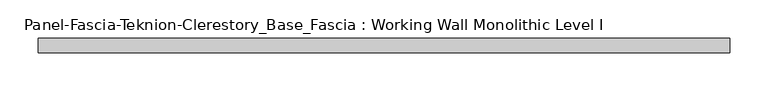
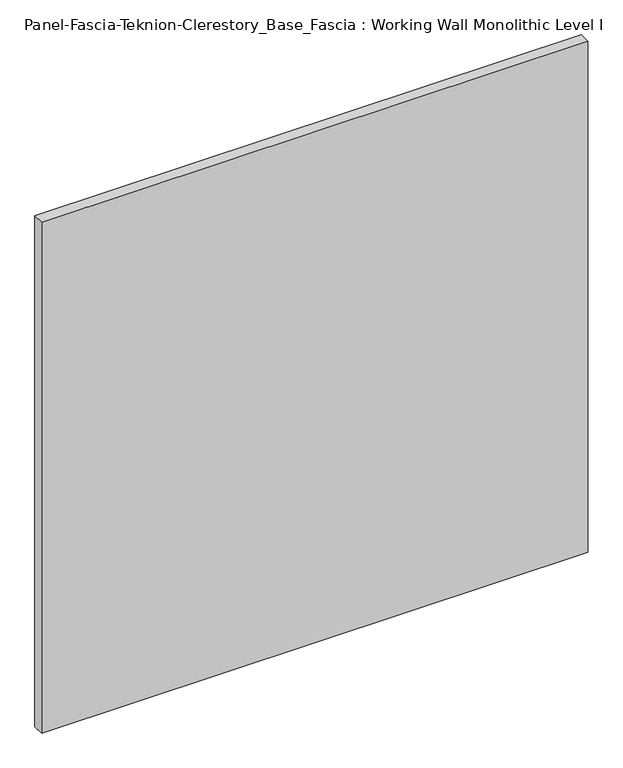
"""IFC4 building model written with IfcOpenShell, lengths in millimetres: proxy geometry, Panel-Fascia-Teknion-Clerestory_Base_Fascia : Working Wall Monolithic Level I."""

from ifc_helpers import new_model, si_unit, frame, origin, place, context, project, spatial, polyline, outline, extrude, source, transform, mapped, element, save


def panel_fascia_teknion_clerestory_base_fascia_working_wall_e7e99f1c(model_context):
    return source(origin(), model_context, "Body", "SweptSolid", [
        extrude(outline(polyline([(454.6147563, 9.525), (454.6147563, -9.525), (-454.6147562, -9.525), (-454.6147562, 9.525), (454.6147563, 9.525)])), frame((0.0, 0.0, 3.175), z_axis=(0.0, 0.0, 1.0), x_axis=(1.0, 0.0, 0.0)), (0.0, 0.0, 1.0), 898.525),
    ])


if __name__ == "__main__":
    model = new_model("IFC4")
    model_context = context("Model", 3, world=origin())
    ifc_project = project(units=[si_unit("LENGTHUNIT", "METRE", prefix="MILLI")], contexts=[model_context])
    site = spatial("IfcSite", under=ifc_project)
    building = spatial("IfcBuilding", under=site)
    placement = place(None, origin())
    panel_fascia_teknion_clerestory_base_fascia_working_wall_shape = panel_fascia_teknion_clerestory_base_fascia_working_wall_e7e99f1c(model_context)
    element("IfcBuildingElementProxy", 1, Name="Panel-Fascia-Teknion-Clerestory_Base_Fascia : Working Wall Monolithic Level I", ObjectType="Panel-Fascia-Teknion-Clerestory_Base_Fascia : Working Wall Monolithic Level I", at=placement, inside=building, context=model_context, shape_type="MappedRepresentation", body=[
        mapped(panel_fascia_teknion_clerestory_base_fascia_working_wall_shape, transform((0.0, 0.0, 0.0), x_axis=(1.0, 0.0, 0.0), y_axis=(0.0, 1.0, 0.0), z_axis=(0.0, 0.0, 1.0))),
    ])
    save(model, "model.ifc")
